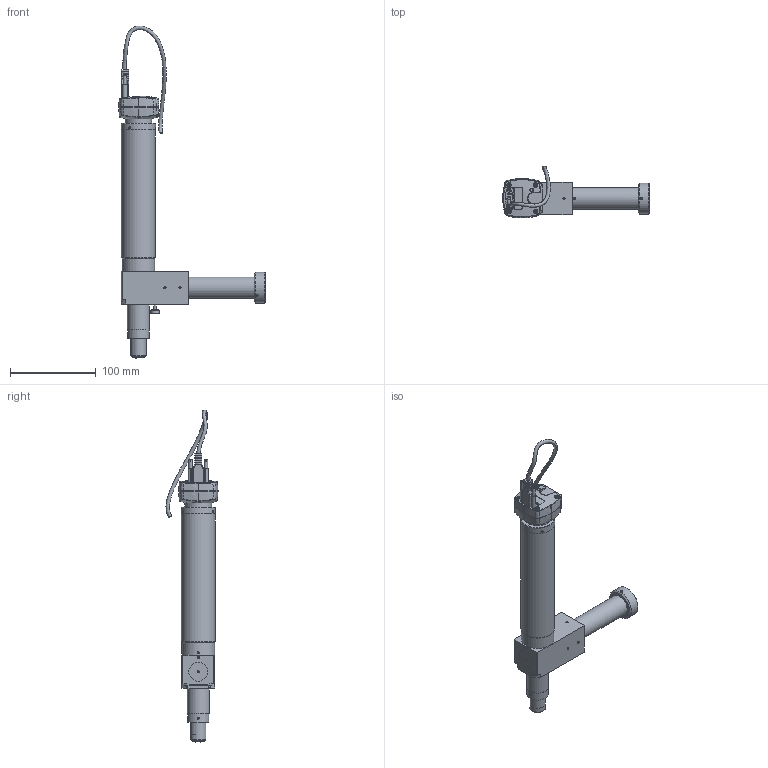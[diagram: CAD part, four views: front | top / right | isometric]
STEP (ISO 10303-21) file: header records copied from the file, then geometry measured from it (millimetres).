
FILE_DESCRIPTION(/* description */ (''),/* implementation_level */ '2;1');
FILE_NAME(/* name */ 'S:\Bureau-Technique\Vidéo\MA 730E-008-10.stp',/* time_stamp */ '2018-10-01T13:07:22+02:00',/* author */ ('chu'),/* organization */ ('Marcel Aubert'),/* preprocessor_version */ 'ST-DEVELOPER v17.2',/* originating_system */ 'Autodesk Inventor 2019',/* authorisation */ '');
FILE_SCHEMA (('AUTOMOTIVE_DESIGN { 1 0 10303 214 3 1 1 }'));
Length unit declared in the file: millimetre
Products named in the file (1): Pièce2
Bounding box: 171 x 60.64 x 387.1 mm (x, y, z)
Volume: 348055.7 mm3; surface area: 100219 mm2
Topology: 1 solids, 22 shells, 1235 faces, 3337 edges, 2249 vertices
Faces by surface type: plane 587, cylinder 317, cone 125, bspline 125, torus 57, sphere 24
Full cylindrical faces by diameter (mm): 1.567 x2, 1.783 x2, 1.88 x4, 2 x4, 2.2 x2, 2.3 x2, 2.459 x28, 2.5 x2, 3 x8, 3.2 x1, 3.5 x4, 3.9 x2, 4 x1, 5 x2, 5.5 x1, 7.1 x2, 7.4 x2, 7.5 x1, 8 x1, 8.5 x2, 8.6 x3, 10 x1, 11 x1, 12 x1, 13 x4, 14 x1, 14.1 x1, 15 x4, 16 x2, 16.46 x2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
Entity records: 63825 total; most frequent: CARTESIAN_POINT 31960, ORIENTED_EDGE 6648, DIRECTION 6051, EDGE_CURVE 3324, AXIS2_PLACEMENT_3D 2341, VERTEX_POINT 2249, EDGE_LOOP 1405, LINE 1369
